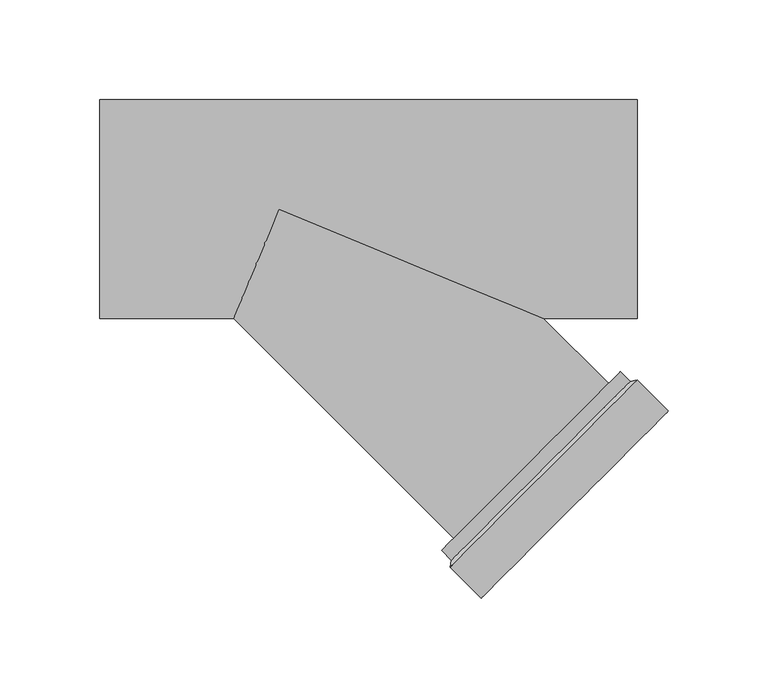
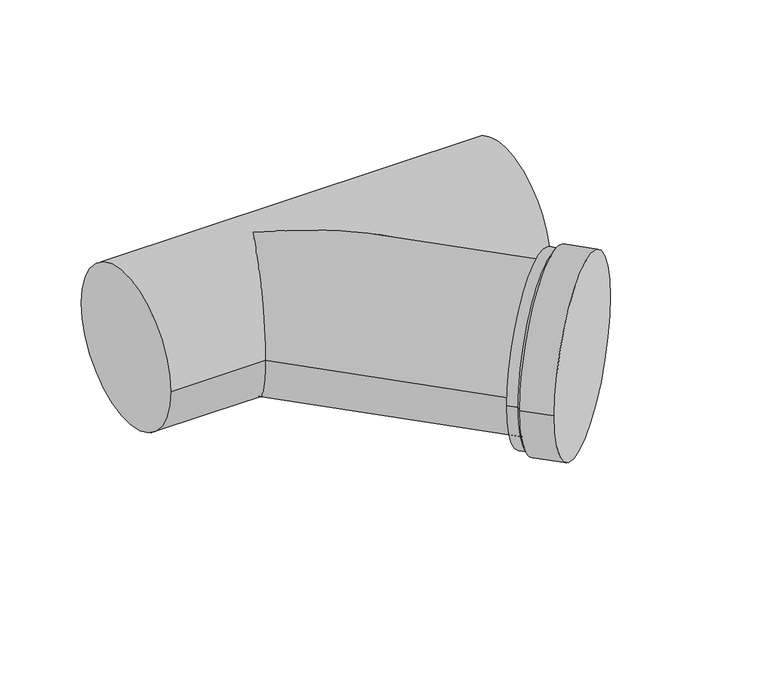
"""IFC4 building model written with IfcOpenShell, lengths in millimetres: pipe fitting geometry, Pipelife - VRD - Rewizja : Pipelife - VRD - Rewizja."""

from ifc_helpers import new_model, si_unit, frame, origin, place, context, project, spatial, polyline, circle_curve, ellipse_curve, source, transform, mapped, element, save
from ifc_brep_helpers import plane_surface, cylinder_surface, revolved_surface, advanced_brep


def pipe_fitting_b099013e(model_context):
    return source(origin(), model_context, "Body", "AdvancedBrep", [
        advanced_brep(
        [(101.4698231, -195.515025, 0.0), (195.515025, -101.4698231, 0.0), (179.9586758, -85.9134739, 0.0), (85.9134739, -179.9586758, 0.0), (176.4231419, -86.6205807, 0.0), (86.6205807, -176.4231419, 0.0), (81.6708332, -171.4733944, 0.0), (171.4733944, -81.6708332, 0.0)],
        [
            (0, 1, circle_curve(frame((148.492424, -148.492424, 0.0), z_axis=(0.7071067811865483, -0.7071067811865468, 0.0), x_axis=(0.7071067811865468, 0.7071067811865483, 0.0)), 66.5)),
            (1, 0, circle_curve(frame((148.492424, -148.492424, 0.0), z_axis=(0.7071067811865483, -0.7071067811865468, 0.0), x_axis=(0.7071067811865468, 0.7071067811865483, 0.0)), 66.5)),
            (1, 2),
            (2, 3, circle_curve(frame((132.9360749, -132.9360749, 0.0), z_axis=(0.7071067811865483, -0.7071067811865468, 0.0), x_axis=(0.7071067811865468, 0.7071067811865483, 0.0)), 66.5)),
            (3, 0),
            (3, 2, circle_curve(frame((132.9360749, -132.9360749, 0.0), z_axis=(0.7071067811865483, -0.7071067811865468, 0.0), x_axis=(0.7071067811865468, 0.7071067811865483, 0.0)), 66.5)),
            (4, 2),
            (3, 5),
            (5, 4, circle_curve(frame((131.5218613, -131.5218613, 0.0), z_axis=(0.7071067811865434, -0.7071067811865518, 0.0), x_axis=(-0.7071067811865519, -0.7071067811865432, 0.0)), 63.5)),
            (4, 5, circle_curve(frame((131.5218613, -131.5218613, 0.0), z_axis=(0.7071067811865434, -0.7071067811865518, 0.0), x_axis=(0.7071067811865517, 0.7071067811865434, 0.0)), 63.5)),
            (6, 7, circle_curve(frame((126.5721138, -126.5721138, 0.0), z_axis=(-0.7071067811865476, 0.7071067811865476, 0.0), x_axis=(0.7071067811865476, 0.7071067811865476, 0.0)), 63.5)),
            (7, 6, circle_curve(frame((126.5721138, -126.5721138, 0.0), z_axis=(-0.7071067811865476, 0.7071067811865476, 0.0), x_axis=(0.7071067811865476, 0.7071067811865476, 0.0)), 63.5)),
            (6, 5),
            (4, 7),
        ],
        [
            plane_surface(frame((148.492424, -148.492424, 0.0), z_axis=(0.7071067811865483, -0.7071067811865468, 0.0), x_axis=(0.0, 0.0, 1.0))),
            cylinder_surface(frame((132.9360749, -132.9360749, 0.0), z_axis=(-0.7071067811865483, 0.7071067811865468, 0.0), x_axis=(0.7071067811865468, 0.7071067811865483, 0.0)), 66.5),
            revolved_surface(polyline([(176.4231419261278, -86.62058067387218, 0.0), (179.9586759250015, -85.9134738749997, 0.0)]), (101.5876742, -101.5876742, 0.0), (0.7071067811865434, -0.7071067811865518, 0.0)),
            plane_surface(frame((126.5721138, -126.5721138, 0.0), z_axis=(-0.7071067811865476, 0.7071067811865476, 0.0), x_axis=(0.0, 0.0, 1.0))),
            cylinder_surface(frame((126.5721138, -126.5721138, 0.0), z_axis=(-0.7071067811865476, 0.7071067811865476, 0.0), x_axis=(0.7071067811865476, 0.7071067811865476, 0.0)), 63.5),
        ],
        [
            (0, [[1, 2]]),
            (1, [[-2, 3, 4, 5]]),
            (1, [[-1, -5, 6, -3]]),
            (2, [[7, -6, 8, 9]]),
            (2, [[-7, 10, -8, -4]]),
            (3, [[11, 12]]),
            (4, [[-11, 13, -10, 14]]),
            (4, [[-12, -14, -9, -13]]),
        ],
    ),
        advanced_brep(
        [(-90.0, -55.0, 0.0), (-90.0, 55.0, 0.0), (180.0, -55.0, 0.0), (180.0, 55.0, 0.0), (-22.7817459, -55.0, 0.0), (0.0, 0.0, 55.0), (132.7817459, -55.0, 0.0), (0.0, 0.0, -55.0), (87.6812409, -165.4629868, 0.0), (165.4629868, -87.6812409, 0.0)],
        [
            (0, 1, circle_curve(frame((-90.0, 0.0, 0.0), z_axis=(-1.0, 0.0, 0.0), x_axis=(0.0, 1.0, 0.0)), 55.0)),
            (1, 0, circle_curve(frame((-90.0, 0.0, 0.0), z_axis=(-1.0, 0.0, 0.0), x_axis=(0.0, 1.0, 0.0)), 55.0)),
            (2, 3, circle_curve(frame((180.0, 0.0, 0.0), z_axis=(1.0, 0.0, 0.0), x_axis=(0.0, 1.0, 0.0)), 55.0)),
            (3, 2, circle_curve(frame((180.0, 0.0, 0.0), z_axis=(1.0, 0.0, 0.0), x_axis=(0.0, 1.0, 0.0)), 55.0)),
            (0, 4),
            (4, 5, ellipse_curve(frame((0.0, 0.0, 0.0), z_axis=(-0.9238795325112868, 0.3826834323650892, 0.0), x_axis=(-0.3826834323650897, -0.9238795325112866, 0.0)), 59.531571, 55.0)),
            (5, 6, ellipse_curve(frame((0.0, 0.0, 0.0), z_axis=(0.3826834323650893, 0.923879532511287, 0.0), x_axis=(-0.9238795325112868, 0.3826834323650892, 0.0)), 143.7219261, 55.0)),
            (6, 2),
            (3, 1),
            (6, 7, ellipse_curve(frame((0.0, 0.0, 0.0), z_axis=(0.3826834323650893, 0.923879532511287, 0.0), x_axis=(-0.9238795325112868, 0.3826834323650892, 0.0)), 143.7219261, 55.0)),
            (7, 4, ellipse_curve(frame((0.0, 0.0, 0.0), z_axis=(-0.9238795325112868, 0.3826834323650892, 0.0), x_axis=(-0.3826834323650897, -0.9238795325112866, 0.0)), 59.531571, 55.0)),
            (8, 9, circle_curve(frame((126.5721138, -126.5721138, 0.0), z_axis=(0.7071067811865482, -0.7071067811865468, 0.0), x_axis=(0.7071067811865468, 0.7071067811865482, 0.0)), 55.0)),
            (9, 8, circle_curve(frame((126.5721138, -126.5721138, 0.0), z_axis=(0.7071067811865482, -0.7071067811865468, 0.0), x_axis=(0.7071067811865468, 0.7071067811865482, 0.0)), 55.0)),
            (9, 6),
            (4, 8),
        ],
        [
            plane_surface(frame((-90.0, 0.0, 0.0), z_axis=(-1.0, 0.0, 0.0), x_axis=(0.0, 0.0, 1.0))),
            plane_surface(frame((180.0, 0.0, 0.0), z_axis=(1.0, 0.0, 0.0), x_axis=(0.0, 0.0, 1.0))),
            cylinder_surface(frame((-90.0, 0.0, 0.0), z_axis=(-1.0, 0.0, 0.0), x_axis=(0.0, 1.0, 0.0)), 55.0),
            plane_surface(frame((126.5721138, -126.5721138, 0.0), z_axis=(0.7071067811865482, -0.7071067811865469, 0.0), x_axis=(0.0, 0.0, 1.0))),
            cylinder_surface(frame((0.0, 0.0, 0.0), z_axis=(-0.7071067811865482, 0.7071067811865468, 0.0), x_axis=(0.7071067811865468, 0.7071067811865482, 0.0)), 55.0),
        ],
        [
            (0, [[1, 2]]),
            (1, [[3, 4]]),
            (2, [[-1, 5, 6, 7, 8, -4, 9]]),
            (2, [[-2, -9, -3, -8, 10, 11, -5]]),
            (3, [[12, 13]]),
            (4, [[-13, 14, -7, -6, 15]]),
            (4, [[-12, -15, -11, -10, -14]]),
        ],
    ),
    ])


if __name__ == "__main__":
    model = new_model("IFC4")
    model_context = context("Model", 3, world=origin())
    ifc_project = project(units=[si_unit("LENGTHUNIT", "METRE", prefix="MILLI")], contexts=[model_context])
    site = spatial("IfcSite", under=ifc_project)
    building = spatial("IfcBuilding", under=site)
    placement = place(None, origin())
    pipe_fitting_shape = pipe_fitting_b099013e(model_context)
    element("IfcPipeFitting", 1, ObjectType="Pipelife - VRD - Rewizja : Pipelife - VRD - Rewizja", at=placement, inside=building, context=model_context, shape_type="MappedRepresentation", body=[
        mapped(pipe_fitting_shape, transform((0.0, 0.0, 0.0), x_axis=(1.0, 0.0, 0.0), y_axis=(0.0, 1.0, 0.0), z_axis=(0.0, 0.0, 1.0))),
    ])
    save(model, "model.ifc")
